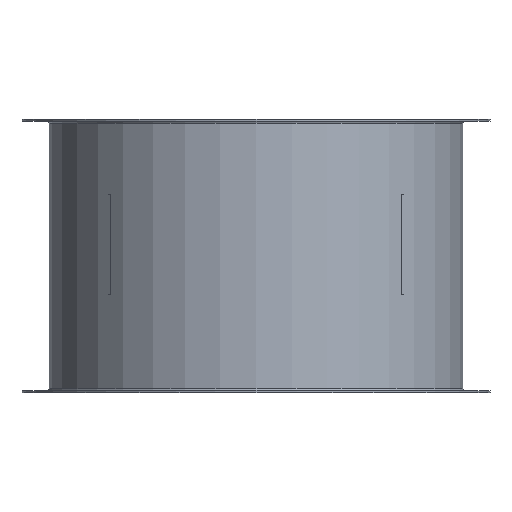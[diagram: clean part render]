
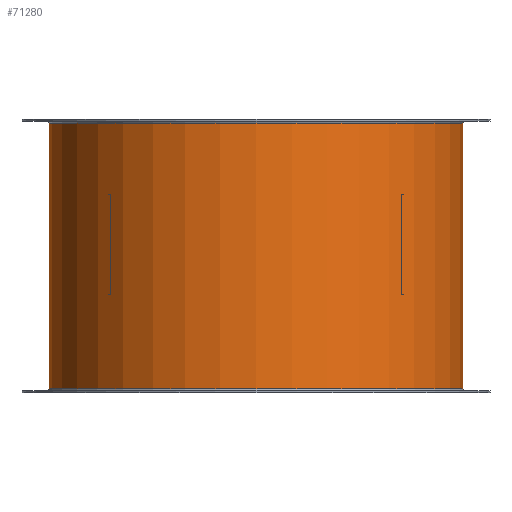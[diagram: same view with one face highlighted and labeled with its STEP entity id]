
A CAD part, front view. The second image highlights one B-rep face of the part: STEP entity #71280.
In plain terms, the highlighted cylindrical face has radius 318 mm (diameter 636 mm), a partial arc.
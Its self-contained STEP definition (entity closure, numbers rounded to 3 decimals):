
#882 = VECTOR ( 'NONE', #60646, 1000. ) ;
#3331 = DIRECTION ( 'NONE',  ( 0., 0., 1. ) ) ;
#3876 = LINE ( 'NONE', #47727, #882 ) ;
#4735 = EDGE_CURVE ( 'NONE', #57708, #7565, #75422, .T. ) ;
#7565 = VERTEX_POINT ( 'NONE', #29449 ) ;
#7678 = ORIENTED_EDGE ( 'NONE', *, *, #30249, .F. ) ;
#9346 = AXIS2_PLACEMENT_3D ( 'NONE', #27768, #21934, #40927 ) ;
#11653 = DIRECTION ( 'NONE',  ( 0., 0., 1. ) ) ;
#12108 = AXIS2_PLACEMENT_3D ( 'NONE', #79191, #48091, #28857 ) ;
#12573 = FACE_OUTER_BOUND ( 'NONE', #38486, .T. ) ;
#18046 = VERTEX_POINT ( 'NONE', #77178 ) ;
#21934 = DIRECTION ( 'NONE',  ( 0., 0., 1. ) ) ;
#22411 = CYLINDRICAL_SURFACE ( 'NONE', #60444, 318. ) ;
#23026 = CIRCLE ( 'NONE', #9346, 318. ) ;
#25309 = ORIENTED_EDGE ( 'NONE', *, *, #34990, .T. ) ;
#27768 = CARTESIAN_POINT ( 'NONE',  ( 0., 0., 204. ) ) ;
#28857 = DIRECTION ( 'NONE',  ( 1., 0., 0. ) ) ;
#29185 = ORIENTED_EDGE ( 'NONE', *, *, #4735, .T. ) ;
#29449 = CARTESIAN_POINT ( 'NONE',  ( 318., 0., 204. ) ) ;
#29811 = CARTESIAN_POINT ( 'NONE',  ( 318., 0., 32.456 ) ) ;
#30249 = EDGE_CURVE ( 'NONE', #18046, #7565, #23026, .T. ) ;
#34990 = EDGE_CURVE ( 'NONE', #41164, #57708, #49984, .T. ) ;
#38486 = EDGE_LOOP ( 'NONE', ( #69419, #25309, #29185, #7678 ) ) ;
#40927 = DIRECTION ( 'NONE',  ( 1., 0., 0. ) ) ;
#41164 = VERTEX_POINT ( 'NONE', #77088 ) ;
#45462 = EDGE_CURVE ( 'NONE', #41164, #18046, #3876, .T. ) ;
#47727 = CARTESIAN_POINT ( 'NONE',  ( -318., 0., 32.456 ) ) ;
#48091 = DIRECTION ( 'NONE',  ( 0., 0., 1. ) ) ;
#49984 = CIRCLE ( 'NONE', #12108, 318. ) ;
#50388 = CARTESIAN_POINT ( 'NONE',  ( 318., 0., -204. ) ) ;
#57708 = VERTEX_POINT ( 'NONE', #50388 ) ;
#60444 = AXIS2_PLACEMENT_3D ( 'NONE', #65780, #3331, #79753 ) ;
#60646 = DIRECTION ( 'NONE',  ( 0., 0., 1. ) ) ;
#65572 = VECTOR ( 'NONE', #11653, 1000. ) ;
#65780 = CARTESIAN_POINT ( 'NONE',  ( 0., 0., 32.456 ) ) ;
#69419 = ORIENTED_EDGE ( 'NONE', *, *, #45462, .F. ) ;
#71280 = ADVANCED_FACE ( 'NONE', ( #12573 ), #22411, .T. ) ;
#75422 = LINE ( 'NONE', #29811, #65572 ) ;
#77088 = CARTESIAN_POINT ( 'NONE',  ( -318., 0., -204. ) ) ;
#77178 = CARTESIAN_POINT ( 'NONE',  ( -318., 0., 204. ) ) ;
#79191 = CARTESIAN_POINT ( 'NONE',  ( 0., 0., -204. ) ) ;
#79753 = DIRECTION ( 'NONE',  ( 1., 0., 0. ) ) ;
